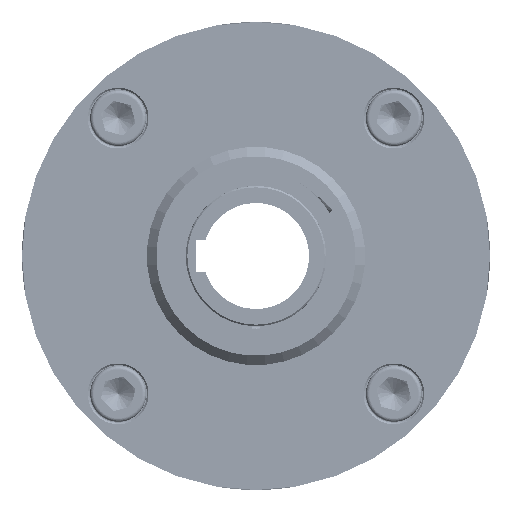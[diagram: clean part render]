
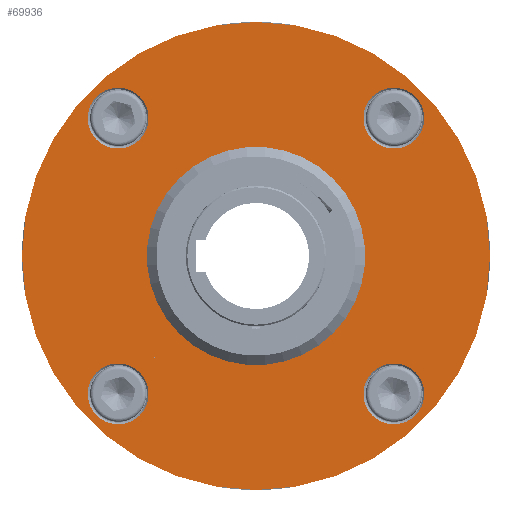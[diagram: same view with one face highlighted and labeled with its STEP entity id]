
A CAD part, left-side view. The second image highlights one B-rep face of the part: STEP entity #69936.
In plain terms, the highlighted planar face has unit normal (-1, 0, 0).
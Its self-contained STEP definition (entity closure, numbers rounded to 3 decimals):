
#11607=FACE_BOUND('',#21394,.T.);
#11608=FACE_BOUND('',#21395,.T.);
#11609=FACE_BOUND('',#21396,.T.);
#11610=FACE_BOUND('',#21397,.T.);
#11611=FACE_BOUND('',#21398,.T.);
#14134=PLANE('',#79419);
#17591=FACE_OUTER_BOUND('',#21393,.T.);
#21393=EDGE_LOOP('',(#61982));
#21394=EDGE_LOOP('',(#61983));
#21395=EDGE_LOOP('',(#61984));
#21396=EDGE_LOOP('',(#61985));
#21397=EDGE_LOOP('',(#61986));
#21398=EDGE_LOOP('',(#61987));
#21825=CIRCLE('',#70495,35.);
#21921=CIRCLE('',#70645,75.);
#24393=CIRCLE('',#79398,9.75);
#24400=CIRCLE('',#79410,9.75);
#24403=CIRCLE('',#79415,9.75);
#24406=CIRCLE('',#79420,9.75);
#24922=VERTEX_POINT('',#106177);
#25061=VERTEX_POINT('',#106791);
#31338=VERTEX_POINT('',#153434);
#31345=VERTEX_POINT('',#153455);
#31348=VERTEX_POINT('',#153465);
#31351=VERTEX_POINT('',#153475);
#32058=EDGE_CURVE('',#24922,#24922,#21825,.T.);
#32243=EDGE_CURVE('',#25061,#25061,#21921,.T.);
#41612=EDGE_CURVE('',#31338,#31338,#24393,.T.);
#41621=EDGE_CURVE('',#31345,#31345,#24400,.T.);
#41626=EDGE_CURVE('',#31348,#31348,#24403,.T.);
#41631=EDGE_CURVE('',#31351,#31351,#24406,.T.);
#61982=ORIENTED_EDGE('',*,*,#32243,.F.);
#61983=ORIENTED_EDGE('',*,*,#41626,.F.);
#61984=ORIENTED_EDGE('',*,*,#41612,.F.);
#61985=ORIENTED_EDGE('',*,*,#32058,.T.);
#61986=ORIENTED_EDGE('',*,*,#41621,.F.);
#61987=ORIENTED_EDGE('',*,*,#41631,.F.);
#69936=ADVANCED_FACE('',(#17591,#11607,#11608,#11609,#11610,#11611),#14134,
 .F.);
#70495=AXIS2_PLACEMENT_3D('',#106179,#80471,#80472);
#70645=AXIS2_PLACEMENT_3D('',#106793,#80831,#80832);
#79398=AXIS2_PLACEMENT_3D('',#153435,#101161,#101162);
#79410=AXIS2_PLACEMENT_3D('',#153456,#101187,#101188);
#79415=AXIS2_PLACEMENT_3D('',#153466,#101199,#101200);
#79419=AXIS2_PLACEMENT_3D('',#153474,#101209,#101210);
#79420=AXIS2_PLACEMENT_3D('',#153476,#101211,#101212);
#80471=DIRECTION('center_axis',(1.,0.,0.));
#80472=DIRECTION('ref_axis',(0.,-0.707,0.707));
#80831=DIRECTION('center_axis',(1.,0.,0.));
#80832=DIRECTION('ref_axis',(0.,-0.707,0.707));
#101161=DIRECTION('center_axis',(-1.,0.,0.));
#101162=DIRECTION('ref_axis',(0.,-0.707,0.707));
#101187=DIRECTION('center_axis',(-1.,0.,0.));
#101188=DIRECTION('ref_axis',(0.,0.707,0.707));
#101199=DIRECTION('center_axis',(-1.,0.,0.));
#101200=DIRECTION('ref_axis',(0.,0.707,-0.707));
#101209=DIRECTION('center_axis',(1.,0.,0.));
#101210=DIRECTION('ref_axis',(0.,-0.707,0.707));
#101211=DIRECTION('center_axis',(-1.,0.,0.));
#101212=DIRECTION('ref_axis',(0.,-0.707,-0.707));
#106177=CARTESIAN_POINT('',(-109.5,-24.749,24.749));
#106179=CARTESIAN_POINT('Origin',(-109.5,0.,0.));
#106791=CARTESIAN_POINT('',(-109.5,-75.,0.));
#106793=CARTESIAN_POINT('Origin',(-109.5,0.,0.));
#153434=CARTESIAN_POINT('',(-109.5,-37.3,37.3));
#153435=CARTESIAN_POINT('Origin',(-109.5,-44.194,44.194));
#153455=CARTESIAN_POINT('',(-109.5,37.3,37.3));
#153456=CARTESIAN_POINT('Origin',(-109.5,44.194,44.194));
#153465=CARTESIAN_POINT('',(-109.5,37.3,-37.3));
#153466=CARTESIAN_POINT('Origin',(-109.5,44.194,-44.194));
#153474=CARTESIAN_POINT('Origin',(-109.5,0.,0.));
#153475=CARTESIAN_POINT('',(-109.5,-37.3,-37.3));
#153476=CARTESIAN_POINT('Origin',(-109.5,-44.194,-44.194));
